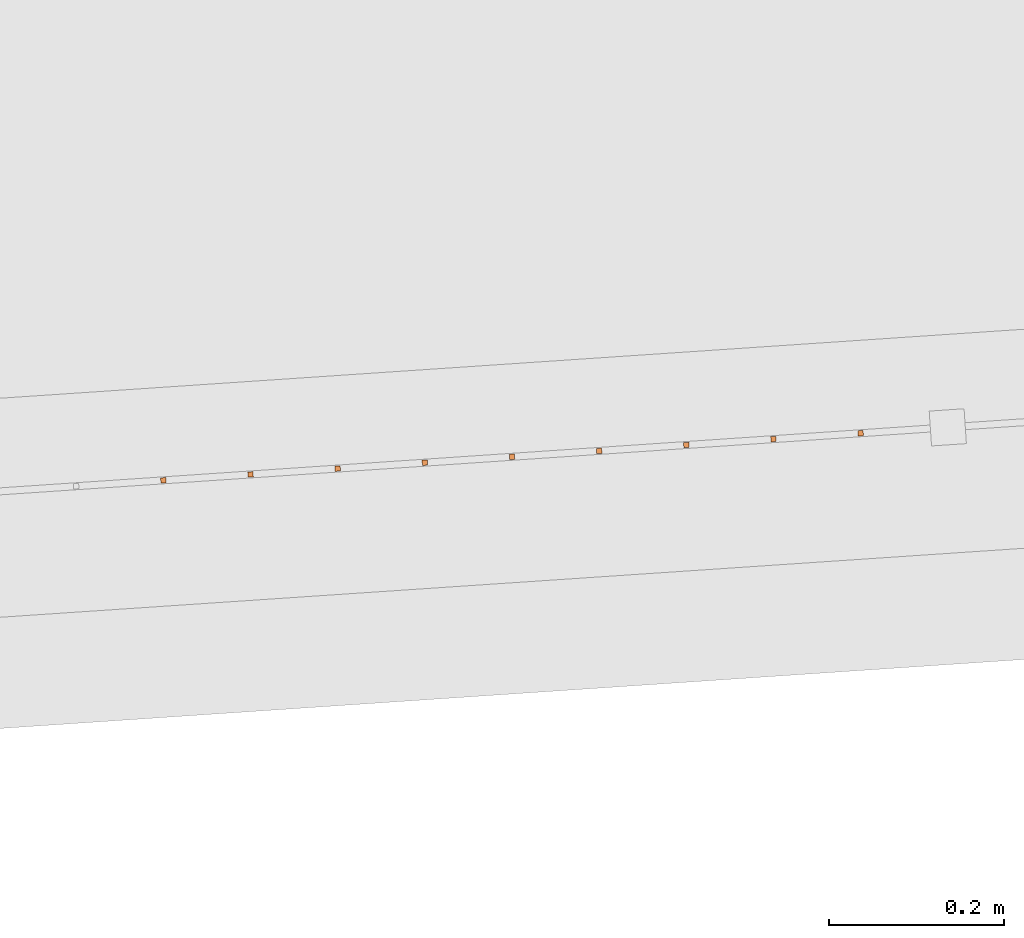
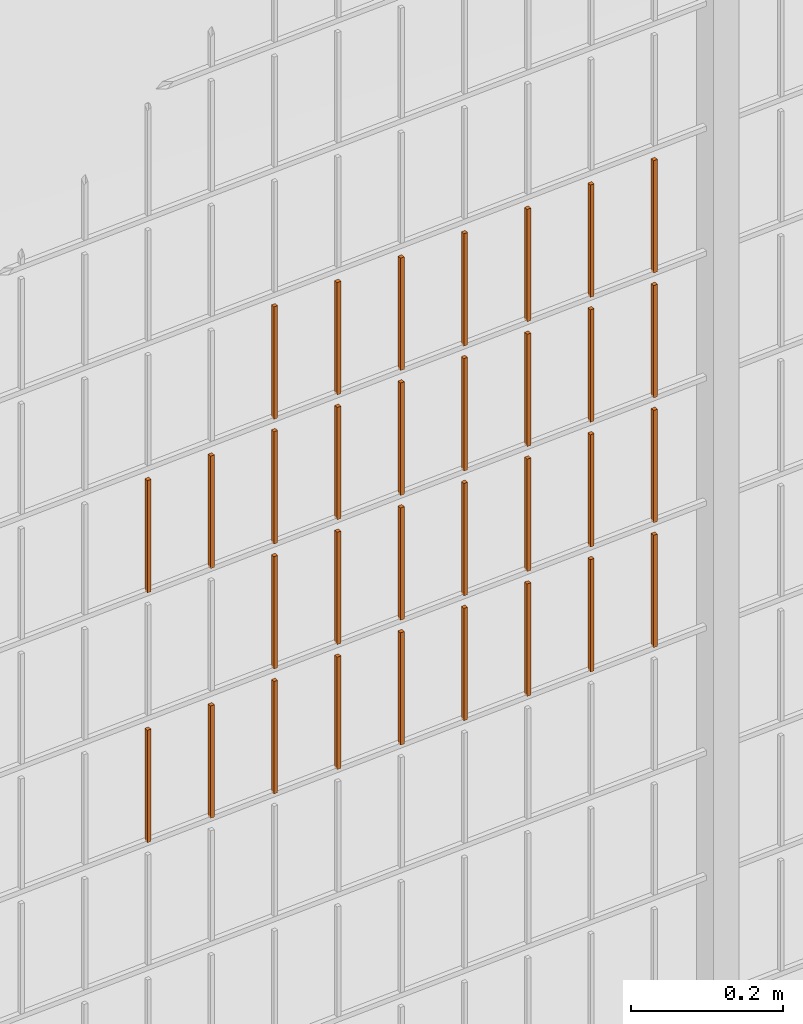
# One storey, part 320 of 1809: 32 proxies, 1 element without a shape of its own.
"""IFC2X3 building model written with IfcOpenShell, lengths in millimetres."""

from ifc_helpers import new_model, entity, si_unit, converted_unit, derived_unit, money_unit, direction, frame, origin_with_axes, place, context, subcontext, project, spatial, faceted_brep, source, transform, mapped, material, type_object, element, aggregate, save


model = new_model("IFC2X3")

# Units and contexts
model_context = context("Model", 3, precision=0.01, world=origin_with_axes(), true_north=direction((0.0, 1.0)))
body_context = subcontext(model_context, "Body", "Model", "MODEL_VIEW")
ifc_project = project(units=[si_unit("LENGTHUNIT", "METRE", prefix="MILLI"), si_unit("AREAUNIT", "SQUARE_METRE"), si_unit("VOLUMEUNIT", "CUBIC_METRE"), converted_unit("PLANEANGLEUNIT", "DEGREE", entity("IfcPlaneAngleMeasure", 0.0174532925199), si_unit("PLANEANGLEUNIT", "RADIAN"), dimensions=[0, 0, 0, 0, 0, 0, 0]), si_unit("SOLIDANGLEUNIT", "STERADIAN"), money_unit("EUR"), converted_unit("TIMEUNIT", "Year", entity("IfcTimeMeasure", 31556926.0), si_unit("TIMEUNIT", "SECOND"), dimensions=[0, 0, 1, 0, 0, 0, 0]), si_unit("MASSUNIT", "GRAM", prefix="KILO"), si_unit("THERMODYNAMICTEMPERATUREUNIT", "DEGREE_CELSIUS"), si_unit("LUMINOUSINTENSITYUNIT", "LUMEN"), si_unit("ENERGYUNIT", "JOULE", prefix="MEGA"), derived_unit("THERMALCONDUCTANCEUNIT", [(si_unit("POWERUNIT", "WATT"), 1), (si_unit("LENGTHUNIT", "METRE"), -1), (si_unit("THERMODYNAMICTEMPERATUREUNIT", "KELVIN"), -1)]), derived_unit("SPECIFICHEATCAPACITYUNIT", [(si_unit("ENERGYUNIT", "JOULE"), 1), (si_unit("MASSUNIT", "GRAM", prefix="KILO"), -1), (si_unit("THERMODYNAMICTEMPERATUREUNIT", "KELVIN"), -1)]), derived_unit("MASSDENSITYUNIT", [(si_unit("MASSUNIT", "GRAM", prefix="KILO"), 1), (si_unit("VOLUMEUNIT", "CUBIC_METRE"), -1)])], contexts=[model_context])

# Site, building, storey
site_placement = place(None, origin_with_axes())
site = spatial("IfcSite", under=ifc_project, at=site_placement, Name="Politse- ja Piirivalveameti ning Päästeameti ühishoone", CompositionType="ELEMENT")
building_placement = place(site_placement, origin_with_axes())
building = spatial("IfcBuilding", under=site, at=building_placement, Name="Politse- ja Piirivalveameti ning Päästeameti ühishoone", CompositionType="ELEMENT")
storey_placement = place(building_placement, origin_with_axes())
storey = spatial("IfcBuildingStorey", under=building, at=storey_placement, Name="Esimene korrus", CompositionType="ELEMENT", Elevation=0.0)

# Proxies
building_element_proxy_type_1 = type_object("IfcBuildingElementProxyType", Name="Railing Type", PredefinedType="NOTDEFINED")
proxy_1_placement = place(storey_placement, frame((89252.001212, -29183.4766571, 203.661247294), z_axis=(0.0, 0.0, 1.0), x_axis=(1.0, 0.0, 0.0)))
proxy_1 = element("IfcBuildingElementProxy", 1, at=proxy_1_placement, inside=storey, type_object=building_element_proxy_type_1, Name="PIIRDEAED")
ifc_material = material(Name="ET-03_Raud")
building_element_proxy_type_2 = type_object("IfcBuildingElementProxyType", Name="IfcBuildingElementProxy", PredefinedType="NOTDEFINED")
shared_shape_1 = source(origin_with_axes(), body_context, "Body", "Brep", [
    faceted_brep([(3.0, 3.0, -0.000752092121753), (-3.0, 3.0, -0.000752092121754), (-3.0, 3.0, 179.99926046), (3.0, 3.0, 179.99926046), (3.0, -3.0, 0.000752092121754), (-3.0, -3.0, 0.000752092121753), (-3.0, -3.0, 180.000764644), (3.0, -3.0, 180.000764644)], [[[0, 1, 2, 3]], [[0, 4, 5, 1]], [[1, 5, 6, 2]], [[3, 2, 6, 7]], [[4, 0, 3, 7]], [[5, 4, 7, 6]]]),
])
proxy_2_placement = place(proxy_1_placement, frame((-37541.1448319, -19833.5374198, 1417.80147365), z_axis=(0.0, 0.0, 1.0), x_axis=(1.0, 0.0, 0.0)))
proxy_2 = element("IfcBuildingElementProxy", 2, at=proxy_2_placement, type_object=building_element_proxy_type_2, material=ifc_material, Name="BALUSTER - 001", context=body_context, shape_type="MappedRepresentation", body=[
    mapped(shared_shape_1, transform((0.0, 0.0, 0.0), x_axis=(-0.0673926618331, 0.997726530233, 0.0), y_axis=(-0.997726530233, -0.0673926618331, 0.0), z_axis=(0.0, 0.0, 1.0))),
])
shared_shape_2 = source(origin_with_axes(), body_context, "Body", "Brep", [
    faceted_brep([(3.0, 3.0, -0.000752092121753), (-3.0, 3.0, -0.000752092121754), (-3.0, 3.0, 179.99926046), (3.0, 3.0, 179.99926046), (3.0, -3.0, 0.000752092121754), (-3.0, -3.0, 0.000752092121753), (-3.0, -3.0, 180.000764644), (3.0, -3.0, 180.000764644)], [[[0, 1, 2, 3]], [[0, 4, 5, 1]], [[1, 5, 6, 2]], [[3, 2, 6, 7]], [[4, 0, 3, 7]], [[5, 4, 7, 6]]]),
])
proxy_3_placement = place(proxy_1_placement, frame((-37541.1448319, -19833.5374198, 1217.80147365), z_axis=(0.0, 0.0, 1.0), x_axis=(1.0, 0.0, 0.0)))
proxy_3 = element("IfcBuildingElementProxy", 3, at=proxy_3_placement, type_object=building_element_proxy_type_2, material=ifc_material, Name="BALUSTER - 001", context=body_context, shape_type="MappedRepresentation", body=[
    mapped(shared_shape_2, transform((0.0, 0.0, 0.0), x_axis=(-0.0673926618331, 0.997726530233, 0.0), y_axis=(-0.997726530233, -0.0673926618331, 0.0), z_axis=(0.0, 0.0, 1.0))),
])
shared_shape_3 = source(origin_with_axes(), body_context, "Body", "Brep", [
    faceted_brep([(3.0, 3.0, -0.000752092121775), (-3.0, 3.0, -0.000752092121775), (-3.0, 3.0, 179.99926046), (3.0, 3.0, 179.99926046), (3.0, -3.0, 0.000752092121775), (-3.0, -3.0, 0.000752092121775), (-3.0, -3.0, 180.000764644), (3.0, -3.0, 180.000764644)], [[[0, 1, 2, 3]], [[0, 4, 5, 1]], [[1, 5, 6, 2]], [[3, 2, 6, 7]], [[4, 0, 3, 7]], [[5, 4, 7, 6]]]),
])
proxy_4_placement = place(proxy_1_placement, frame((-38040.0080971, -19867.2337508, 817.67612496), z_axis=(0.0, 0.0, 1.0), x_axis=(1.0, 0.0, 0.0)))
proxy_4 = element("IfcBuildingElementProxy", 4, at=proxy_4_placement, type_object=building_element_proxy_type_2, material=ifc_material, Name="BALUSTER - 001", context=body_context, shape_type="MappedRepresentation", body=[
    mapped(shared_shape_3, transform((0.0, 0.0, 0.0), x_axis=(-0.0673926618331, 0.997726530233, 0.0), y_axis=(-0.997726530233, -0.0673926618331, 0.0), z_axis=(0.0, 0.0, 1.0))),
])
shared_shape_4 = source(origin_with_axes(), body_context, "Body", "Brep", [
    faceted_brep([(3.0, 3.0, -0.000752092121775), (-3.0, 3.0, -0.000752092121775), (-3.0, 3.0, 179.99926046), (3.0, 3.0, 179.99926046), (3.0, -3.0, 0.000752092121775), (-3.0, -3.0, 0.000752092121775), (-3.0, -3.0, 180.000764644), (3.0, -3.0, 180.000764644)], [[[0, 1, 2, 3]], [[0, 4, 5, 1]], [[1, 5, 6, 2]], [[3, 2, 6, 7]], [[4, 0, 3, 7]], [[5, 4, 7, 6]]]),
])
proxy_5_placement = place(proxy_1_placement, frame((-38040.0080971, -19867.2337508, 1217.67612496), z_axis=(0.0, 0.0, 1.0), x_axis=(1.0, 0.0, 0.0)))
proxy_5 = element("IfcBuildingElementProxy", 5, at=proxy_5_placement, type_object=building_element_proxy_type_2, material=ifc_material, Name="BALUSTER - 001", context=body_context, shape_type="MappedRepresentation", body=[
    mapped(shared_shape_4, transform((0.0, 0.0, 0.0), x_axis=(-0.0673926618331, 0.997726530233, 0.0), y_axis=(-0.997726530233, -0.0673926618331, 0.0), z_axis=(0.0, 0.0, 1.0))),
])
shared_shape_5 = source(origin_with_axes(), body_context, "Body", "Brep", [
    faceted_brep([(3.0, 3.0, -0.000752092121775), (-3.0, 3.0, -0.000752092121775), (-3.0, 3.0, 179.99926046), (3.0, 3.0, 179.99926046), (3.0, -3.0, 0.000752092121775), (-3.0, -3.0, 0.000752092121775), (-3.0, -3.0, 180.000764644), (3.0, -3.0, 180.000764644)], [[[0, 1, 2, 3]], [[0, 4, 5, 1]], [[1, 5, 6, 2]], [[3, 2, 6, 7]], [[4, 0, 3, 7]], [[5, 4, 7, 6]]]),
])
proxy_6_placement = place(proxy_1_placement, frame((-37441.3721789, -19826.7981537, 1217.82654338), z_axis=(0.0, 0.0, 1.0), x_axis=(1.0, 0.0, 0.0)))
proxy_6 = element("IfcBuildingElementProxy", 6, at=proxy_6_placement, type_object=building_element_proxy_type_2, material=ifc_material, Name="BALUSTER - 001", context=body_context, shape_type="MappedRepresentation", body=[
    mapped(shared_shape_5, transform((0.0, 0.0, 0.0), x_axis=(-0.0673926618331, 0.997726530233, 0.0), y_axis=(-0.997726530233, -0.0673926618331, 0.0), z_axis=(0.0, 0.0, 1.0))),
])
shared_shape_6 = source(origin_with_axes(), body_context, "Body", "Brep", [
    faceted_brep([(3.0, 3.0, -0.000752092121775), (-3.0, 3.0, -0.000752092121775), (-3.0, 3.0, 179.99926046), (3.0, 3.0, 179.99926046), (3.0, -3.0, 0.000752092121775), (-3.0, -3.0, 0.000752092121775), (-3.0, -3.0, 180.000764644), (3.0, -3.0, 180.000764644)], [[[0, 1, 2, 3]], [[0, 4, 5, 1]], [[1, 5, 6, 2]], [[3, 2, 6, 7]], [[4, 0, 3, 7]], [[5, 4, 7, 6]]]),
])
proxy_7_placement = place(proxy_1_placement, frame((-38139.7807501, -19873.9730169, 817.651055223), z_axis=(0.0, 0.0, 1.0), x_axis=(1.0, 0.0, 0.0)))
proxy_7 = element("IfcBuildingElementProxy", 7, at=proxy_7_placement, type_object=building_element_proxy_type_2, material=ifc_material, Name="BALUSTER - 001", context=body_context, shape_type="MappedRepresentation", body=[
    mapped(shared_shape_6, transform((0.0, 0.0, 0.0), x_axis=(-0.0673926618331, 0.997726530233, 0.0), y_axis=(-0.997726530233, -0.0673926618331, 0.0), z_axis=(0.0, 0.0, 1.0))),
])
shared_shape_7 = source(origin_with_axes(), body_context, "Body", "Brep", [
    faceted_brep([(3.0, 3.0, -0.000752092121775), (-3.0, 3.0, -0.000752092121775), (-3.0, 3.0, 179.99926046), (3.0, 3.0, 179.99926046), (3.0, -3.0, 0.000752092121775), (-3.0, -3.0, 0.000752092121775), (-3.0, -3.0, 180.000764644), (3.0, -3.0, 180.000764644)], [[[0, 1, 2, 3]], [[0, 4, 5, 1]], [[1, 5, 6, 2]], [[3, 2, 6, 7]], [[4, 0, 3, 7]], [[5, 4, 7, 6]]]),
])
proxy_8_placement = place(proxy_1_placement, frame((-37441.3721789, -19826.7981537, 1417.82654338), z_axis=(0.0, 0.0, 1.0), x_axis=(1.0, 0.0, 0.0)))
proxy_8 = element("IfcBuildingElementProxy", 8, at=proxy_8_placement, type_object=building_element_proxy_type_2, material=ifc_material, Name="BALUSTER - 001", context=body_context, shape_type="MappedRepresentation", body=[
    mapped(shared_shape_7, transform((0.0, 0.0, 0.0), x_axis=(-0.0673926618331, 0.997726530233, 0.0), y_axis=(-0.997726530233, -0.0673926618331, 0.0), z_axis=(0.0, 0.0, 1.0))),
])
shared_shape_8 = source(origin_with_axes(), body_context, "Body", "Brep", [
    faceted_brep([(3.0, 3.0, -0.000752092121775), (-3.0, 3.0, -0.000752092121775), (-3.0, 3.0, 179.99926046), (3.0, 3.0, 179.99926046), (3.0, -3.0, 0.000752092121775), (-3.0, -3.0, 0.000752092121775), (-3.0, -3.0, 180.000764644), (3.0, -3.0, 180.000764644)], [[[0, 1, 2, 3]], [[0, 4, 5, 1]], [[1, 5, 6, 2]], [[3, 2, 6, 7]], [[4, 0, 3, 7]], [[5, 4, 7, 6]]]),
])
proxy_9_placement = place(proxy_1_placement, frame((-38139.7807501, -19873.9730169, 1217.65105522), z_axis=(0.0, 0.0, 1.0), x_axis=(1.0, 0.0, 0.0)))
proxy_9 = element("IfcBuildingElementProxy", 9, at=proxy_9_placement, type_object=building_element_proxy_type_2, material=ifc_material, Name="BALUSTER - 001", context=body_context, shape_type="MappedRepresentation", body=[
    mapped(shared_shape_8, transform((0.0, 0.0, 0.0), x_axis=(-0.0673926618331, 0.997726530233, 0.0), y_axis=(-0.997726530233, -0.0673926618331, 0.0), z_axis=(0.0, 0.0, 1.0))),
])
shared_shape_9 = source(origin_with_axes(), body_context, "Body", "Brep", [
    faceted_brep([(3.0, 3.0, -0.000752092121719), (-3.0, 3.0, -0.000752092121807), (-3.00000000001, 2.99999999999, 179.99926046), (2.99999999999, 2.99999999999, 179.99926046), (3.0, -3.0, 0.000752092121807), (-3.0, -3.0, 0.000752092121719), (-3.00000000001, -3.00000000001, 180.000764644), (2.99999999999, -3.00000000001, 180.000764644)], [[[0, 1, 2, 3]], [[0, 4, 5, 1]], [[1, 5, 6, 2]], [[3, 2, 6, 7]], [[4, 0, 3, 7]], [[5, 4, 7, 6]]]),
])
proxy_10_placement = place(proxy_1_placement, frame((-37640.917485, -19840.276686, 1017.77640391), z_axis=(0.0, 0.0, 1.0), x_axis=(1.0, 0.0, 0.0)))
proxy_10 = element("IfcBuildingElementProxy", 10, at=proxy_10_placement, type_object=building_element_proxy_type_2, material=ifc_material, Name="BALUSTER - 001", context=body_context, shape_type="MappedRepresentation", body=[
    mapped(shared_shape_9, transform((0.0, 0.0, 0.0), x_axis=(-0.0673926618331, 0.997726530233, 0.0), y_axis=(-0.997726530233, -0.0673926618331, 0.0), z_axis=(0.0, 0.0, 1.0))),
])
shared_shape_10 = source(origin_with_axes(), body_context, "Body", "Brep", [
    faceted_brep([(3.0, 3.0, -0.000752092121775), (-3.0, 3.0, -0.000752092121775), (-3.0, 3.0, 179.99926046), (3.0, 3.0, 179.99926046), (3.0, -3.0, 0.000752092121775), (-3.0, -3.0, 0.000752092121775), (-3.0, -3.0, 180.000764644), (3.0, -3.0, 180.000764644)], [[[0, 1, 2, 3]], [[0, 4, 5, 1]], [[1, 5, 6, 2]], [[3, 2, 6, 7]], [[4, 0, 3, 7]], [[5, 4, 7, 6]]]),
])
proxy_11_placement = place(proxy_1_placement, frame((-37441.3721789, -19826.7981537, 817.826543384), z_axis=(0.0, 0.0, 1.0), x_axis=(1.0, 0.0, 0.0)))
proxy_11 = element("IfcBuildingElementProxy", 11, at=proxy_11_placement, type_object=building_element_proxy_type_2, material=ifc_material, Name="BALUSTER - 001", context=body_context, shape_type="MappedRepresentation", body=[
    mapped(shared_shape_10, transform((0.0, 0.0, 0.0), x_axis=(-0.0673926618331, 0.997726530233, 0.0), y_axis=(-0.997726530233, -0.0673926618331, 0.0), z_axis=(0.0, 0.0, 1.0))),
])
shared_shape_11 = source(origin_with_axes(), body_context, "Body", "Brep", [
    faceted_brep([(3.0, 3.0, -0.000752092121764), (-3.0, 3.0, -0.000752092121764), (-3.0, 3.0, 179.99926046), (3.0, 3.0, 179.99926046), (3.0, -3.0, 0.000752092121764), (-3.0, -3.0, 0.000752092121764), (-3.0, -3.0, 180.000764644), (3.0, -3.0, 180.000764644)], [[[0, 1, 2, 3]], [[0, 4, 5, 1]], [[1, 5, 6, 2]], [[3, 2, 6, 7]], [[4, 0, 3, 7]], [[5, 4, 7, 6]]]),
])
proxy_12_placement = place(proxy_1_placement, frame((-37341.5995259, -19820.0588875, 1217.85161312), z_axis=(0.0, 0.0, 1.0), x_axis=(1.0, 0.0, 0.0)))
proxy_12 = element("IfcBuildingElementProxy", 12, at=proxy_12_placement, type_object=building_element_proxy_type_2, material=ifc_material, Name="BALUSTER - 001", context=body_context, shape_type="MappedRepresentation", body=[
    mapped(shared_shape_11, transform((0.0, 0.0, 0.0), x_axis=(-0.0673926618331, 0.997726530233, 0.0), y_axis=(-0.997726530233, -0.0673926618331, 0.0), z_axis=(0.0, 0.0, 1.0))),
])
shared_shape_12 = source(origin_with_axes(), body_context, "Body", "Brep", [
    faceted_brep([(3.0, 3.0, -0.000752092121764), (-3.0, 3.0, -0.000752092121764), (-3.0, 3.0, 179.99926046), (3.0, 3.0, 179.99926046), (3.0, -3.0, 0.000752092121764), (-3.0, -3.0, 0.000752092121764), (-3.0, -3.0, 180.000764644), (3.0, -3.0, 180.000764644)], [[[0, 1, 2, 3]], [[0, 4, 5, 1]], [[1, 5, 6, 2]], [[3, 2, 6, 7]], [[4, 0, 3, 7]], [[5, 4, 7, 6]]]),
])
proxy_13_placement = place(proxy_1_placement, frame((-37341.5995259, -19820.0588875, 817.851613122), z_axis=(0.0, 0.0, 1.0), x_axis=(1.0, 0.0, 0.0)))
proxy_13 = element("IfcBuildingElementProxy", 13, at=proxy_13_placement, type_object=building_element_proxy_type_2, material=ifc_material, Name="BALUSTER - 001", context=body_context, shape_type="MappedRepresentation", body=[
    mapped(shared_shape_12, transform((0.0, 0.0, 0.0), x_axis=(-0.0673926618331, 0.997726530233, 0.0), y_axis=(-0.997726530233, -0.0673926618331, 0.0), z_axis=(0.0, 0.0, 1.0))),
])
shared_shape_13 = source(origin_with_axes(), body_context, "Body", "Brep", [
    faceted_brep([(3.0, 3.0, -0.000752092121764), (-3.0, 3.0, -0.000752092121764), (-3.0, 3.0, 179.99926046), (3.0, 3.0, 179.99926046), (3.0, -3.0, 0.000752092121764), (-3.0, -3.0, 0.000752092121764), (-3.0, -3.0, 180.000764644), (3.0, -3.0, 180.000764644)], [[[0, 1, 2, 3]], [[0, 4, 5, 1]], [[1, 5, 6, 2]], [[3, 2, 6, 7]], [[4, 0, 3, 7]], [[5, 4, 7, 6]]]),
])
proxy_14_placement = place(proxy_1_placement, frame((-37640.917485, -19840.276686, 817.77640391), z_axis=(0.0, 0.0, 1.0), x_axis=(1.0, 0.0, 0.0)))
proxy_14 = element("IfcBuildingElementProxy", 14, at=proxy_14_placement, type_object=building_element_proxy_type_2, material=ifc_material, Name="BALUSTER - 001", context=body_context, shape_type="MappedRepresentation", body=[
    mapped(shared_shape_13, transform((0.0, 0.0, 0.0), x_axis=(-0.0673926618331, 0.997726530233, 0.0), y_axis=(-0.997726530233, -0.0673926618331, 0.0), z_axis=(0.0, 0.0, 1.0))),
])
shared_shape_14 = source(origin_with_axes(), body_context, "Body", "Brep", [
    faceted_brep([(3.0, 3.0, -0.000752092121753), (-3.0, 3.0, -0.000752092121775), (-3.0, 3.0, 179.99926046), (3.0, 3.0, 179.99926046), (3.0, -3.0, 0.000752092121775), (-3.0, -3.0, 0.000752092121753), (-3.0, -3.0, 180.000764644), (3.0, -3.0, 180.000764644)], [[[0, 1, 2, 3]], [[0, 4, 5, 1]], [[1, 5, 6, 2]], [[3, 2, 6, 7]], [[4, 0, 3, 7]], [[5, 4, 7, 6]]]),
])
proxy_15_placement = place(proxy_1_placement, frame((-37740.690138, -19847.0159522, 817.751334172), z_axis=(0.0, 0.0, 1.0), x_axis=(1.0, 0.0, 0.0)))
proxy_15 = element("IfcBuildingElementProxy", 15, at=proxy_15_placement, type_object=building_element_proxy_type_2, material=ifc_material, Name="BALUSTER - 001", context=body_context, shape_type="MappedRepresentation", body=[
    mapped(shared_shape_14, transform((0.0, 0.0, 0.0), x_axis=(-0.0673926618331, 0.997726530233, 0.0), y_axis=(-0.997726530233, -0.0673926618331, 0.0), z_axis=(0.0, 0.0, 1.0))),
])
proxy_16_placement = place(proxy_1_placement, frame((-37640.917485, -19840.276686, 1217.77640391), z_axis=(0.0, 0.0, 1.0), x_axis=(1.0, 0.0, 0.0)))
proxy_16 = element("IfcBuildingElementProxy", 16, at=proxy_16_placement, type_object=building_element_proxy_type_2, material=ifc_material, Name="BALUSTER - 001", context=body_context, shape_type="MappedRepresentation", body=[
    mapped(shared_shape_14, transform((0.0, 0.0, 0.0), x_axis=(-0.0673926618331, 0.997726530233, 0.0), y_axis=(-0.997726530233, -0.0673926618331, 0.0), z_axis=(0.0, 0.0, 1.0))),
])
shared_shape_15 = source(origin_with_axes(), body_context, "Body", "Brep", [
    faceted_brep([(3.0, 3.0, -0.000752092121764), (-3.0, 3.0, -0.000752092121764), (-3.0, 3.0, 179.99926046), (3.0, 3.0, 179.99926046), (3.0, -3.0, 0.000752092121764), (-3.0, -3.0, 0.000752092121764), (-3.0, -3.0, 180.000764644), (3.0, -3.0, 180.000764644)], [[[0, 1, 2, 3]], [[0, 4, 5, 1]], [[1, 5, 6, 2]], [[3, 2, 6, 7]], [[4, 0, 3, 7]], [[5, 4, 7, 6]]]),
])
proxy_17_placement = place(proxy_1_placement, frame((-37541.1448319, -19833.5374198, 817.801473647), z_axis=(0.0, 0.0, 1.0), x_axis=(1.0, 0.0, 0.0)))
proxy_17 = element("IfcBuildingElementProxy", 17, at=proxy_17_placement, type_object=building_element_proxy_type_2, material=ifc_material, Name="BALUSTER - 001", context=body_context, shape_type="MappedRepresentation", body=[
    mapped(shared_shape_15, transform((0.0, 0.0, 0.0), x_axis=(-0.0673926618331, 0.997726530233, 0.0), y_axis=(-0.997726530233, -0.0673926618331, 0.0), z_axis=(0.0, 0.0, 1.0))),
])
shared_shape_16 = source(origin_with_axes(), body_context, "Body", "Brep", [
    faceted_brep([(3.0, 3.0, -0.000752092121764), (-3.0, 3.0, -0.000752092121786), (-3.0, 3.0, 179.99926046), (3.0, 3.0, 179.99926046), (3.0, -3.0, 0.000752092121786), (-3.0, -3.0, 0.000752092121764), (-3.0, -3.0, 180.000764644), (3.0, -3.0, 180.000764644)], [[[0, 1, 2, 3]], [[0, 4, 5, 1]], [[1, 5, 6, 2]], [[3, 2, 6, 7]], [[4, 0, 3, 7]], [[5, 4, 7, 6]]]),
])
proxy_18_placement = place(proxy_1_placement, frame((-37840.462791, -19853.7552184, 1217.72626443), z_axis=(0.0, 0.0, 1.0), x_axis=(1.0, 0.0, 0.0)))
proxy_18 = element("IfcBuildingElementProxy", 18, at=proxy_18_placement, type_object=building_element_proxy_type_2, material=ifc_material, Name="BALUSTER - 001", context=body_context, shape_type="MappedRepresentation", body=[
    mapped(shared_shape_16, transform((0.0, 0.0, 0.0), x_axis=(-0.0673926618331, 0.997726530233, 0.0), y_axis=(-0.997726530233, -0.0673926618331, 0.0), z_axis=(0.0, 0.0, 1.0))),
])
proxy_19_placement = place(proxy_1_placement, frame((-37940.235444, -19860.4944846, 1217.7011947), z_axis=(0.0, 0.0, 1.0), x_axis=(1.0, 0.0, 0.0)))
proxy_19 = element("IfcBuildingElementProxy", 19, at=proxy_19_placement, type_object=building_element_proxy_type_2, material=ifc_material, Name="BALUSTER - 001", context=body_context, shape_type="MappedRepresentation", body=[
    mapped(shared_shape_16, transform((0.0, 0.0, 0.0), x_axis=(-0.0673926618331, 0.997726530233, 0.0), y_axis=(-0.997726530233, -0.0673926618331, 0.0), z_axis=(0.0, 0.0, 1.0))),
])
shared_shape_17 = source(origin_with_axes(), body_context, "Body", "Brep", [
    faceted_brep([(3.0, 3.0, -0.000752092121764), (-3.0, 3.0, -0.000752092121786), (-3.0, 3.0, 179.99926046), (3.0, 3.0, 179.99926046), (3.0, -3.0, 0.000752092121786), (-3.0, -3.0, 0.000752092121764), (-3.0, -3.0, 180.000764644), (3.0, -3.0, 180.000764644)], [[[0, 1, 2, 3]], [[0, 4, 5, 1]], [[1, 5, 6, 2]], [[3, 2, 6, 7]], [[4, 0, 3, 7]], [[5, 4, 7, 6]]]),
])
proxy_20_placement = place(proxy_1_placement, frame((-37840.462791, -19853.7552184, 1417.72626443), z_axis=(0.0, 0.0, 1.0), x_axis=(1.0, 0.0, 0.0)))
proxy_20 = element("IfcBuildingElementProxy", 20, at=proxy_20_placement, type_object=building_element_proxy_type_2, material=ifc_material, Name="BALUSTER - 001", context=body_context, shape_type="MappedRepresentation", body=[
    mapped(shared_shape_17, transform((0.0, 0.0, 0.0), x_axis=(-0.0673926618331, 0.997726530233, 0.0), y_axis=(-0.997726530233, -0.0673926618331, 0.0), z_axis=(0.0, 0.0, 1.0))),
])
proxy_21_placement = place(proxy_1_placement, frame((-37940.235444, -19860.4944846, 1417.7011947), z_axis=(0.0, 0.0, 1.0), x_axis=(1.0, 0.0, 0.0)))
proxy_21 = element("IfcBuildingElementProxy", 21, at=proxy_21_placement, type_object=building_element_proxy_type_2, material=ifc_material, Name="BALUSTER - 001", context=body_context, shape_type="MappedRepresentation", body=[
    mapped(shared_shape_17, transform((0.0, 0.0, 0.0), x_axis=(-0.0673926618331, 0.997726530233, 0.0), y_axis=(-0.997726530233, -0.0673926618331, 0.0), z_axis=(0.0, 0.0, 1.0))),
])
shared_shape_18 = source(origin_with_axes(), body_context, "Body", "Brep", [
    faceted_brep([(3.0, 3.0, -0.000752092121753), (-3.0, 3.0, -0.000752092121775), (-3.0, 3.0, 179.99926046), (3.0, 3.0, 179.99926046), (3.0, -3.0, 0.000752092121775), (-3.0, -3.0, 0.000752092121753), (-3.0, -3.0, 180.000764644), (3.0, -3.0, 180.000764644)], [[[0, 1, 2, 3]], [[0, 4, 5, 1]], [[1, 5, 6, 2]], [[3, 2, 6, 7]], [[4, 0, 3, 7]], [[5, 4, 7, 6]]]),
])
proxy_22_placement = place(proxy_1_placement, frame((-37740.690138, -19847.0159522, 1217.75133417), z_axis=(0.0, 0.0, 1.0), x_axis=(1.0, 0.0, 0.0)))
proxy_22 = element("IfcBuildingElementProxy", 22, at=proxy_22_placement, type_object=building_element_proxy_type_2, material=ifc_material, Name="BALUSTER - 001", context=body_context, shape_type="MappedRepresentation", body=[
    mapped(shared_shape_18, transform((0.0, 0.0, 0.0), x_axis=(-0.0673926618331, 0.997726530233, 0.0), y_axis=(-0.997726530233, -0.0673926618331, 0.0), z_axis=(0.0, 0.0, 1.0))),
])
shared_shape_19 = source(origin_with_axes(), body_context, "Body", "Brep", [
    faceted_brep([(3.0, 3.0, -0.000752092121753), (-3.0, 3.0, -0.000752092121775), (-3.0, 3.0, 179.99926046), (3.0, 3.0, 179.99926046), (3.0, -3.0, 0.000752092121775), (-3.0, -3.0, 0.000752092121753), (-3.0, -3.0, 180.000764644), (3.0, -3.0, 180.000764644)], [[[0, 1, 2, 3]], [[0, 4, 5, 1]], [[1, 5, 6, 2]], [[3, 2, 6, 7]], [[4, 0, 3, 7]], [[5, 4, 7, 6]]]),
])
proxy_23_placement = place(proxy_1_placement, frame((-37840.462791, -19853.7552184, 817.726264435), z_axis=(0.0, 0.0, 1.0), x_axis=(1.0, 0.0, 0.0)))
proxy_23 = element("IfcBuildingElementProxy", 23, at=proxy_23_placement, type_object=building_element_proxy_type_2, material=ifc_material, Name="BALUSTER - 001", context=body_context, shape_type="MappedRepresentation", body=[
    mapped(shared_shape_19, transform((0.0, 0.0, 0.0), x_axis=(-0.0673926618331, 0.997726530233, 0.0), y_axis=(-0.997726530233, -0.0673926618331, 0.0), z_axis=(0.0, 0.0, 1.0))),
])
proxy_24_placement = place(proxy_1_placement, frame((-37940.235444, -19860.4944846, 817.701194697), z_axis=(0.0, 0.0, 1.0), x_axis=(1.0, 0.0, 0.0)))
proxy_24 = element("IfcBuildingElementProxy", 24, at=proxy_24_placement, type_object=building_element_proxy_type_2, material=ifc_material, Name="BALUSTER - 001", context=body_context, shape_type="MappedRepresentation", body=[
    mapped(shared_shape_19, transform((0.0, 0.0, 0.0), x_axis=(-0.0673926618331, 0.997726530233, 0.0), y_axis=(-0.997726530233, -0.0673926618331, 0.0), z_axis=(0.0, 0.0, 1.0))),
])
shared_shape_20 = source(origin_with_axes(), body_context, "Body", "Brep", [
    faceted_brep([(3.0, 3.0, -0.000752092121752), (-3.0, 3.0, -0.000752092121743), (-3.00000000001, 2.99999999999, 179.99926046), (2.99999999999, 2.99999999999, 179.99926046), (3.0, -3.0, 0.000752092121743), (-3.0, -3.0, 0.000752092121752), (-3.00000000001, -3.00000000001, 180.000764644), (2.99999999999, -3.00000000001, 180.000764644)], [[[0, 1, 2, 3]], [[0, 4, 5, 1]], [[1, 5, 6, 2]], [[3, 2, 6, 7]], [[4, 0, 3, 7]], [[5, 4, 7, 6]]]),
])
proxy_25_placement = place(proxy_1_placement, frame((-37341.5995259, -19820.0588875, 1017.85161312), z_axis=(0.0, 0.0, 1.0), x_axis=(1.0, 0.0, 0.0)))
proxy_25 = element("IfcBuildingElementProxy", 25, at=proxy_25_placement, type_object=building_element_proxy_type_2, material=ifc_material, Name="BALUSTER - 001", context=body_context, shape_type="MappedRepresentation", body=[
    mapped(shared_shape_20, transform((0.0, 0.0, 0.0), x_axis=(-0.0673926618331, 0.997726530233, 0.0), y_axis=(-0.997726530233, -0.0673926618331, 0.0), z_axis=(0.0, 0.0, 1.0))),
])
shared_shape_21 = source(origin_with_axes(), body_context, "Body", "Brep", [
    faceted_brep([(3.0, 3.0, -0.000752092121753), (-3.0, 3.0, -0.000752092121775), (-3.0, 3.0, 179.99926046), (3.0, 3.0, 179.99926046), (3.0, -3.0, 0.000752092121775), (-3.0, -3.0, 0.000752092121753), (-3.0, -3.0, 180.000764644), (3.0, -3.0, 180.000764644)], [[[0, 1, 2, 3]], [[0, 4, 5, 1]], [[1, 5, 6, 2]], [[3, 2, 6, 7]], [[4, 0, 3, 7]], [[5, 4, 7, 6]]]),
])
proxy_26_placement = place(proxy_1_placement, frame((-37740.690138, -19847.0159522, 1417.75133417), z_axis=(0.0, 0.0, 1.0), x_axis=(1.0, 0.0, 0.0)))
proxy_26 = element("IfcBuildingElementProxy", 26, at=proxy_26_placement, type_object=building_element_proxy_type_2, material=ifc_material, Name="BALUSTER - 001", context=body_context, shape_type="MappedRepresentation", body=[
    mapped(shared_shape_21, transform((0.0, 0.0, 0.0), x_axis=(-0.0673926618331, 0.997726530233, 0.0), y_axis=(-0.997726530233, -0.0673926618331, 0.0), z_axis=(0.0, 0.0, 1.0))),
])
shared_shape_22 = source(origin_with_axes(), body_context, "Body", "Brep", [
    faceted_brep([(3.0, 3.0, -0.000752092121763), (-3.0, 3.0, -0.000752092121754), (-3.00000000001, 2.99999999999, 179.99926046), (2.99999999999, 2.99999999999, 179.99926046), (3.0, -3.0, 0.000752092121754), (-3.0, -3.0, 0.000752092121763), (-3.00000000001, -3.00000000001, 180.000764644), (2.99999999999, -3.00000000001, 180.000764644)], [[[0, 1, 2, 3]], [[0, 4, 5, 1]], [[1, 5, 6, 2]], [[3, 2, 6, 7]], [[4, 0, 3, 7]], [[5, 4, 7, 6]]]),
])
proxy_27_placement = place(proxy_1_placement, frame((-37441.3721789, -19826.7981537, 1017.82654338), z_axis=(0.0, 0.0, 1.0), x_axis=(1.0, 0.0, 0.0)))
proxy_27 = element("IfcBuildingElementProxy", 27, at=proxy_27_placement, type_object=building_element_proxy_type_2, material=ifc_material, Name="BALUSTER - 001", context=body_context, shape_type="MappedRepresentation", body=[
    mapped(shared_shape_22, transform((0.0, 0.0, 0.0), x_axis=(-0.0673926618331, 0.997726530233, 0.0), y_axis=(-0.997726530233, -0.0673926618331, 0.0), z_axis=(0.0, 0.0, 1.0))),
])
shared_shape_23 = source(origin_with_axes(), body_context, "Body", "Brep", [
    faceted_brep([(3.0, 3.0, -0.000752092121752), (-3.0, 3.0, -0.000752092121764), (-3.00000000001, 2.99999999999, 179.99926046), (2.99999999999, 2.99999999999, 179.99926046), (3.0, -3.0, 0.000752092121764), (-3.0, -3.0, 0.000752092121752), (-3.00000000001, -3.00000000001, 180.000764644), (2.99999999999, -3.00000000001, 180.000764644)], [[[0, 1, 2, 3]], [[0, 4, 5, 1]], [[1, 5, 6, 2]], [[3, 2, 6, 7]], [[4, 0, 3, 7]], [[5, 4, 7, 6]]]),
])
proxy_28_placement = place(proxy_1_placement, frame((-37740.690138, -19847.0159522, 1017.75133417), z_axis=(0.0, 0.0, 1.0), x_axis=(1.0, 0.0, 0.0)))
proxy_28 = element("IfcBuildingElementProxy", 28, at=proxy_28_placement, type_object=building_element_proxy_type_2, material=ifc_material, Name="BALUSTER - 001", context=body_context, shape_type="MappedRepresentation", body=[
    mapped(shared_shape_23, transform((0.0, 0.0, 0.0), x_axis=(-0.0673926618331, 0.997726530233, 0.0), y_axis=(-0.997726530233, -0.0673926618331, 0.0), z_axis=(0.0, 0.0, 1.0))),
])
shared_shape_24 = source(origin_with_axes(), body_context, "Body", "Brep", [
    faceted_brep([(3.0, 3.0, -0.000752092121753), (-3.0, 3.0, -0.000752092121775), (-3.0, 3.0, 179.99926046), (3.0, 3.0, 179.99926046), (3.0, -3.0, 0.000752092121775), (-3.0, -3.0, 0.000752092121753), (-3.0, -3.0, 180.000764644), (3.0, -3.0, 180.000764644)], [[[0, 1, 2, 3]], [[0, 4, 5, 1]], [[1, 5, 6, 2]], [[3, 2, 6, 7]], [[4, 0, 3, 7]], [[5, 4, 7, 6]]]),
])
proxy_29_placement = place(proxy_1_placement, frame((-37640.917485, -19840.276686, 1417.77640391), z_axis=(0.0, 0.0, 1.0), x_axis=(1.0, 0.0, 0.0)))
proxy_29 = element("IfcBuildingElementProxy", 29, at=proxy_29_placement, type_object=building_element_proxy_type_2, material=ifc_material, Name="BALUSTER - 001", context=body_context, shape_type="MappedRepresentation", body=[
    mapped(shared_shape_24, transform((0.0, 0.0, 0.0), x_axis=(-0.0673926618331, 0.997726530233, 0.0), y_axis=(-0.997726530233, -0.0673926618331, 0.0), z_axis=(0.0, 0.0, 1.0))),
])
shared_shape_25 = source(origin_with_axes(), body_context, "Body", "Brep", [
    faceted_brep([(3.0, 3.0, -0.000752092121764), (-3.0, 3.0, -0.000752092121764), (-3.0, 3.0, 179.99926046), (3.0, 3.0, 179.99926046), (3.0, -3.0, 0.000752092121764), (-3.0, -3.0, 0.000752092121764), (-3.0, -3.0, 180.000764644), (3.0, -3.0, 180.000764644)], [[[0, 1, 2, 3]], [[0, 4, 5, 1]], [[1, 5, 6, 2]], [[3, 2, 6, 7]], [[4, 0, 3, 7]], [[5, 4, 7, 6]]]),
])
proxy_30_placement = place(proxy_1_placement, frame((-37341.5995259, -19820.0588875, 1417.85161312), z_axis=(0.0, 0.0, 1.0), x_axis=(1.0, 0.0, 0.0)))
proxy_30 = element("IfcBuildingElementProxy", 30, at=proxy_30_placement, type_object=building_element_proxy_type_2, material=ifc_material, Name="BALUSTER - 001", context=body_context, shape_type="MappedRepresentation", body=[
    mapped(shared_shape_25, transform((0.0, 0.0, 0.0), x_axis=(-0.0673926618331, 0.997726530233, 0.0), y_axis=(-0.997726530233, -0.0673926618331, 0.0), z_axis=(0.0, 0.0, 1.0))),
])
shared_shape_26 = source(origin_with_axes(), body_context, "Body", "Brep", [
    faceted_brep([(3.0, 3.0, -0.000752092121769), (-3.0, 3.0, -0.00075209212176), (-3.00000000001, 3.0, 179.99926046), (2.99999999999, 3.0, 179.99926046), (3.0, -3.0, 0.00075209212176), (-3.0, -3.0, 0.000752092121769), (-3.00000000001, -3.0, 180.000764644), (2.99999999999, -3.0, 180.000764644)], [[[0, 1, 2, 3]], [[0, 4, 5, 1]], [[1, 5, 6, 2]], [[3, 2, 6, 7]], [[4, 0, 3, 7]], [[5, 4, 7, 6]]]),
])
proxy_31_placement = place(proxy_1_placement, frame((-37541.1448319, -19833.5374198, 1017.80147365), z_axis=(0.0, 0.0, 1.0), x_axis=(1.0, 0.0, 0.0)))
proxy_31 = element("IfcBuildingElementProxy", 31, at=proxy_31_placement, type_object=building_element_proxy_type_2, material=ifc_material, Name="BALUSTER - 001", context=body_context, shape_type="MappedRepresentation", body=[
    mapped(shared_shape_26, transform((0.0, 0.0, 0.0), x_axis=(-0.0673926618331, 0.997726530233, 0.0), y_axis=(-0.997726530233, -0.0673926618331, 0.0), z_axis=(0.0, 0.0, 1.0))),
])
shared_shape_27 = source(origin_with_axes(), body_context, "Body", "Brep", [
    faceted_brep([(3.0, 3.0, -0.000752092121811), (-3.0, 3.0, -0.000752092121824), (-3.00000000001, 3.0, 179.99926046), (2.99999999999, 3.0, 179.99926046), (3.0, -3.0, 0.000752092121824), (-3.0, -3.0, 0.000752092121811), (-3.00000000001, -3.0, 180.000764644), (2.99999999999, -3.0, 180.000764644)], [[[0, 1, 2, 3]], [[0, 4, 5, 1]], [[1, 5, 6, 2]], [[3, 2, 6, 7]], [[4, 0, 3, 7]], [[5, 4, 7, 6]]]),
])
proxy_32_placement = place(proxy_1_placement, frame((-37840.462791, -19853.7552184, 1017.72626443), z_axis=(0.0, 0.0, 1.0), x_axis=(1.0, 0.0, 0.0)))
proxy_32 = element("IfcBuildingElementProxy", 32, at=proxy_32_placement, type_object=building_element_proxy_type_2, material=ifc_material, Name="BALUSTER - 001", context=body_context, shape_type="MappedRepresentation", body=[
    mapped(shared_shape_27, transform((0.0, 0.0, 0.0), x_axis=(-0.0673926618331, 0.997726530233, 0.0), y_axis=(-0.997726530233, -0.0673926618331, 0.0), z_axis=(0.0, 0.0, 1.0))),
])
proxy_33_placement = place(proxy_1_placement, frame((-37940.235444, -19860.4944846, 1017.7011947), z_axis=(0.0, 0.0, 1.0), x_axis=(1.0, 0.0, 0.0)))
proxy_33 = element("IfcBuildingElementProxy", 33, at=proxy_33_placement, type_object=building_element_proxy_type_2, material=ifc_material, Name="BALUSTER - 001", context=body_context, shape_type="MappedRepresentation", body=[
    mapped(shared_shape_27, transform((0.0, 0.0, 0.0), x_axis=(-0.0673926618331, 0.997726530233, 0.0), y_axis=(-0.997726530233, -0.0673926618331, 0.0), z_axis=(0.0, 0.0, 1.0))),
])
aggregate(proxy_1, [proxy_13, proxy_11, proxy_17, proxy_14, proxy_15, proxy_23, proxy_24, proxy_4, proxy_7, proxy_25, proxy_27, proxy_31, proxy_10, proxy_28, proxy_32, proxy_33, proxy_12, proxy_6, proxy_3, proxy_16, proxy_22, proxy_18, proxy_19, proxy_5, proxy_9, proxy_30, proxy_8, proxy_2, proxy_29, proxy_26, proxy_20, proxy_21])

save(model, "model.ifc")
